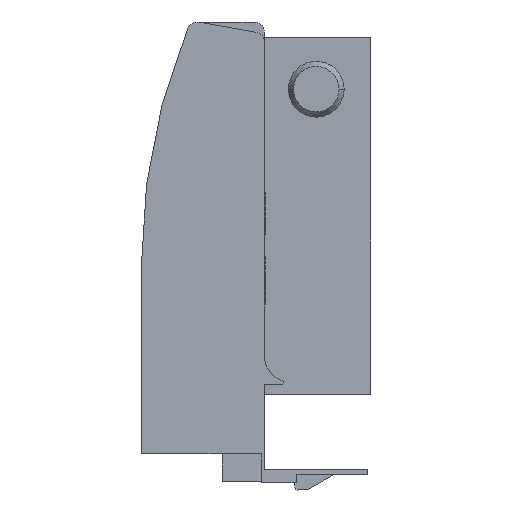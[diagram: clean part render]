
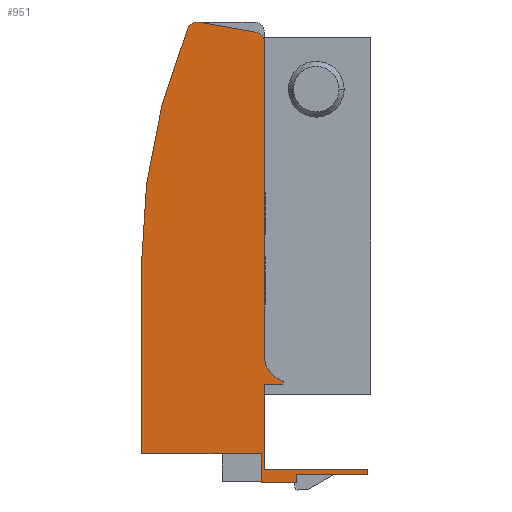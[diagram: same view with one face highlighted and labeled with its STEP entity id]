
A CAD part, front view. The second image highlights one B-rep face of the part: STEP entity #951.
In plain terms, the highlighted planar face has unit normal (0, -1, 0).
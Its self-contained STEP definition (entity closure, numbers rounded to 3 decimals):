
#2 = EDGE_CURVE ( 'NONE', #1168, #1150, #2085, .T. ) ;
#7 = EDGE_CURVE ( 'NONE', #1137, #1088, #2092, .T. ) ;
#10 = EDGE_CURVE ( 'NONE', #1150, #1137, #2086, .T. ) ;
#18 = EDGE_CURVE ( 'NONE', #1171, #1108, #2063, .T. ) ;
#112 = AXIS2_PLACEMENT_3D ( 'NONE', #1217, #1218, #1219 ) ;
#162 = AXIS2_PLACEMENT_3D ( 'NONE', #1556, #1557, #1558 ) ;
#212 = AXIS2_PLACEMENT_3D ( 'NONE', #1809, #1810, #1811 ) ;
#213 = AXIS2_PLACEMENT_3D ( 'NONE', #1814, #1815, #1816 ) ;
#215 = AXIS2_PLACEMENT_3D ( 'NONE', #1824, #1825, #1826 ) ;
#349 = ORIENTED_EDGE ( 'NONE', *, *, #1030, .F. ) ;
#384 = ORIENTED_EDGE ( 'NONE', *, *, #18, .F. ) ;
#399 = ORIENTED_EDGE ( 'NONE', *, *, #996, .F. ) ;
#406 = ORIENTED_EDGE ( 'NONE', *, *, #1029, .F. ) ;
#414 = ORIENTED_EDGE ( 'NONE', *, *, #1059, .F. ) ;
#420 = ORIENTED_EDGE ( 'NONE', *, *, #1057, .F. ) ;
#427 = ORIENTED_EDGE ( 'NONE', *, *, #1028, .F. ) ;
#436 = ORIENTED_EDGE ( 'NONE', *, *, #1031, .F. ) ;
#479 = VECTOR ( 'NONE', #1872, 1000. ) ;
#480 = LINE ( 'NONE', #1871, #479 ) ;
#483 = VECTOR ( 'NONE', #1868, 1000. ) ;
#484 = LINE ( 'NONE', #1867, #483 ) ;
#500 = VECTOR ( 'NONE', #1845, 1000. ) ;
#501 = LINE ( 'NONE', #1844, #500 ) ;
#509 = VECTOR ( 'NONE', #1834, 1000. ) ;
#510 = LINE ( 'NONE', #1833, #509 ) ;
#517 = CIRCLE ( 'NONE', #215, 2. ) ;
#523 = CIRCLE ( 'NONE', #213, 2. ) ;
#525 = VECTOR ( 'NONE', #1813, 1000. ) ;
#526 = CIRCLE ( 'NONE', #212, 120.6 ) ;
#527 = LINE ( 'NONE', #1812, #525 ) ;
#528 = VECTOR ( 'NONE', #1808, 1000. ) ;
#529 = LINE ( 'NONE', #1807, #528 ) ;
#530 = VECTOR ( 'NONE', #1806, 1000. ) ;
#531 = LINE ( 'NONE', #1805, #530 ) ;
#532 = VECTOR ( 'NONE', #1804, 1000. ) ;
#533 = LINE ( 'NONE', #1803, #532 ) ;
#534 = VECTOR ( 'NONE', #1802, 1000. ) ;
#535 = LINE ( 'NONE', #1801, #534 ) ;
#593 = VECTOR ( 'NONE', #1730, 1000. ) ;
#595 = LINE ( 'NONE', #1729, #593 ) ;
#661 = FACE_OUTER_BOUND ( 'NONE', #781, .T. ) ;
#781 = EDGE_LOOP ( 'NONE', ( #1068, #2029, #2052, #2037, #2055, #2035, #893, #918, #906, #384, #414, #436, #349, #406, #399, #420, #427 ) ) ;
#893 = ORIENTED_EDGE ( 'NONE', *, *, #1032, .F. ) ;
#906 = ORIENTED_EDGE ( 'NONE', *, *, #1042, .F. ) ;
#918 = ORIENTED_EDGE ( 'NONE', *, *, #1047, .F. ) ;
#951 = ADVANCED_FACE ( 'NONE', ( #661 ), #1555, .T. ) ;
#996 = EDGE_CURVE ( 'NONE', #1079, #1167, #595, .T. ) ;
#1028 = EDGE_CURVE ( 'NONE', #1088, #1164, #535, .T. ) ;
#1029 = EDGE_CURVE ( 'NONE', #1167, #1165, #533, .T. ) ;
#1030 = EDGE_CURVE ( 'NONE', #1165, #1173, #531, .T. ) ;
#1031 = EDGE_CURVE ( 'NONE', #1173, #1163, #529, .T. ) ;
#1032 = EDGE_CURVE ( 'NONE', #1151, #1078, #526, .T. ) ;
#1033 = EDGE_CURVE ( 'NONE', #1138, #1139, #527, .T. ) ;
#1034 = EDGE_CURVE ( 'NONE', #1168, #1138, #523, .T. ) ;
#1038 = EDGE_CURVE ( 'NONE', #1078, #1139, #517, .T. ) ;
#1042 = EDGE_CURVE ( 'NONE', #1108, #1162, #510, .T. ) ;
#1047 = EDGE_CURVE ( 'NONE', #1162, #1151, #501, .T. ) ;
#1057 = EDGE_CURVE ( 'NONE', #1164, #1079, #484, .T. ) ;
#1059 = EDGE_CURVE ( 'NONE', #1163, #1171, #480, .T. ) ;
#1068 = ORIENTED_EDGE ( 'NONE', *, *, #7, .F. ) ;
#1078 = VERTEX_POINT ( 'NONE', #1879 ) ;
#1079 = VERTEX_POINT ( 'NONE', #1880 ) ;
#1088 = VERTEX_POINT ( 'NONE', #1889 ) ;
#1108 = VERTEX_POINT ( 'NONE', #1909 ) ;
#1137 = VERTEX_POINT ( 'NONE', #1938 ) ;
#1138 = VERTEX_POINT ( 'NONE', #1939 ) ;
#1139 = VERTEX_POINT ( 'NONE', #1940 ) ;
#1150 = VERTEX_POINT ( 'NONE', #1951 ) ;
#1151 = VERTEX_POINT ( 'NONE', #1952 ) ;
#1162 = VERTEX_POINT ( 'NONE', #1963 ) ;
#1163 = VERTEX_POINT ( 'NONE', #1964 ) ;
#1164 = VERTEX_POINT ( 'NONE', #1965 ) ;
#1165 = VERTEX_POINT ( 'NONE', #1966 ) ;
#1167 = VERTEX_POINT ( 'NONE', #1968 ) ;
#1168 = VERTEX_POINT ( 'NONE', #1969 ) ;
#1171 = VERTEX_POINT ( 'NONE', #1972 ) ;
#1173 = VERTEX_POINT ( 'NONE', #1974 ) ;
#1201 = CARTESIAN_POINT ( 'NONE',  ( 21.5, 0., 68. ) ) ;
#1202 = DIRECTION ( 'NONE',  ( 0., 0., -1. ) ) ;
#1211 = CARTESIAN_POINT ( 'NONE',  ( 25.161, 0., 0.578 ) ) ;
#1212 = DIRECTION ( 'NONE',  ( -0.268, 0., -0.963 ) ) ;
#1217 = CARTESIAN_POINT ( 'NONE',  ( 26.5, 0., 5.395 ) ) ;
#1218 = DIRECTION ( 'NONE',  ( 0., -1., 0. ) ) ;
#1219 = DIRECTION ( 'NONE',  ( -1., 0., 0. ) ) ;
#1234 = CARTESIAN_POINT ( 'NONE',  ( 20.9, 0., -19.1 ) ) ;
#1235 = DIRECTION ( 'NONE',  ( 0., 0., 1. ) ) ;
#1555 = PLANE ( 'NONE',  #162 ) ;
#1556 = CARTESIAN_POINT ( 'NONE',  ( 4.5, 0., 34.728 ) ) ;
#1557 = DIRECTION ( 'NONE',  ( 0., -1., 0. ) ) ;
#1558 = DIRECTION ( 'NONE',  ( -1., 0., 0. ) ) ;
#1729 = CARTESIAN_POINT ( 'NONE',  ( 21.5, 0., -16.5 ) ) ;
#1730 = DIRECTION ( 'NONE',  ( 1., 0., 0. ) ) ;
#1801 = CARTESIAN_POINT ( 'NONE',  ( 25., 0., 0. ) ) ;
#1802 = DIRECTION ( 'NONE',  ( -1., 0., 0. ) ) ;
#1803 = CARTESIAN_POINT ( 'NONE',  ( 41.499, 0., -16.5 ) ) ;
#1804 = DIRECTION ( 'NONE',  ( 0., 0., -1. ) ) ;
#1805 = CARTESIAN_POINT ( 'NONE',  ( 41.499, 0., -17.528 ) ) ;
#1806 = DIRECTION ( 'NONE',  ( -1., 0., 0. ) ) ;
#1807 = CARTESIAN_POINT ( 'NONE',  ( 27.599, 0., -17.528 ) ) ;
#1808 = DIRECTION ( 'NONE',  ( 0., 0., -1. ) ) ;
#1809 = CARTESIAN_POINT ( 'NONE',  ( 118.3, 0., 23.168 ) ) ;
#1810 = DIRECTION ( 'NONE',  ( 0., 1., 0. ) ) ;
#1811 = DIRECTION ( 'NONE',  ( -1., 0., 0. ) ) ;
#1812 = CARTESIAN_POINT ( 'NONE',  ( 8.847, 0., 69.97 ) ) ;
#1813 = DIRECTION ( 'NONE',  ( -0.985, 0., 0.174 ) ) ;
#1814 = CARTESIAN_POINT ( 'NONE',  ( 19.5, 0., 66.06 ) ) ;
#1815 = DIRECTION ( 'NONE',  ( 0., -1., 0. ) ) ;
#1816 = DIRECTION ( 'NONE',  ( -1., 0., 0. ) ) ;
#1824 = CARTESIAN_POINT ( 'NONE',  ( 8.5, 0., 68. ) ) ;
#1825 = DIRECTION ( 'NONE',  ( 0., 1., 0. ) ) ;
#1826 = DIRECTION ( 'NONE',  ( -1., 0., 0. ) ) ;
#1833 = CARTESIAN_POINT ( 'NONE',  ( 21.5, 0., -13.5 ) ) ;
#1834 = DIRECTION ( 'NONE',  ( -1., 0., 0. ) ) ;
#1844 = CARTESIAN_POINT ( 'NONE',  ( -2.3, 0., -13.5 ) ) ;
#1845 = DIRECTION ( 'NONE',  ( 0., 0., 1. ) ) ;
#1867 = CARTESIAN_POINT ( 'NONE',  ( 21.5, 0., 0. ) ) ;
#1868 = DIRECTION ( 'NONE',  ( 0., 0., -1. ) ) ;
#1871 = CARTESIAN_POINT ( 'NONE',  ( 27.599, 0., -19.1 ) ) ;
#1872 = DIRECTION ( 'NONE',  ( -1., 0., 0. ) ) ;
#1879 = CARTESIAN_POINT ( 'NONE',  ( 6.648, 0., 68.756 ) ) ;
#1880 = CARTESIAN_POINT ( 'NONE',  ( 21.5, 0., -16.5 ) ) ;
#1889 = CARTESIAN_POINT ( 'NONE',  ( 25., 0., 0. ) ) ;
#1909 = CARTESIAN_POINT ( 'NONE',  ( 20.9, 0., -13.5 ) ) ;
#1938 = CARTESIAN_POINT ( 'NONE',  ( 25.161, 0., 0.578 ) ) ;
#1939 = CARTESIAN_POINT ( 'NONE',  ( 19.847, 0., 68.03 ) ) ;
#1940 = CARTESIAN_POINT ( 'NONE',  ( 8.847, 0., 69.97 ) ) ;
#1951 = CARTESIAN_POINT ( 'NONE',  ( 21.5, 0., 5.395 ) ) ;
#1952 = CARTESIAN_POINT ( 'NONE',  ( -2.3, 0., 23.168 ) ) ;
#1963 = CARTESIAN_POINT ( 'NONE',  ( -2.3, 0., -13.5 ) ) ;
#1964 = CARTESIAN_POINT ( 'NONE',  ( 27.599, 0., -19.1 ) ) ;
#1965 = CARTESIAN_POINT ( 'NONE',  ( 21.5, 0., 0. ) ) ;
#1966 = CARTESIAN_POINT ( 'NONE',  ( 41.499, 0., -17.528 ) ) ;
#1968 = CARTESIAN_POINT ( 'NONE',  ( 41.499, 0., -16.5 ) ) ;
#1969 = CARTESIAN_POINT ( 'NONE',  ( 21.5, 0., 66.06 ) ) ;
#1972 = CARTESIAN_POINT ( 'NONE',  ( 20.9, 0., -19.1 ) ) ;
#1974 = CARTESIAN_POINT ( 'NONE',  ( 27.599, 0., -17.528 ) ) ;
#2029 = ORIENTED_EDGE ( 'NONE', *, *, #10, .F. ) ;
#2035 = ORIENTED_EDGE ( 'NONE', *, *, #1038, .F. ) ;
#2037 = ORIENTED_EDGE ( 'NONE', *, *, #1034, .T. ) ;
#2052 = ORIENTED_EDGE ( 'NONE', *, *, #2, .F. ) ;
#2055 = ORIENTED_EDGE ( 'NONE', *, *, #1033, .T. ) ;
#2063 = LINE ( 'NONE', #1234, #2077 ) ;
#2077 = VECTOR ( 'NONE', #1235, 1000. ) ;
#2085 = LINE ( 'NONE', #1201, #2173 ) ;
#2086 = CIRCLE ( 'NONE', #112, 5. ) ;
#2092 = LINE ( 'NONE', #1211, #2177 ) ;
#2173 = VECTOR ( 'NONE', #1202, 1000. ) ;
#2177 = VECTOR ( 'NONE', #1212, 1000. ) ;
